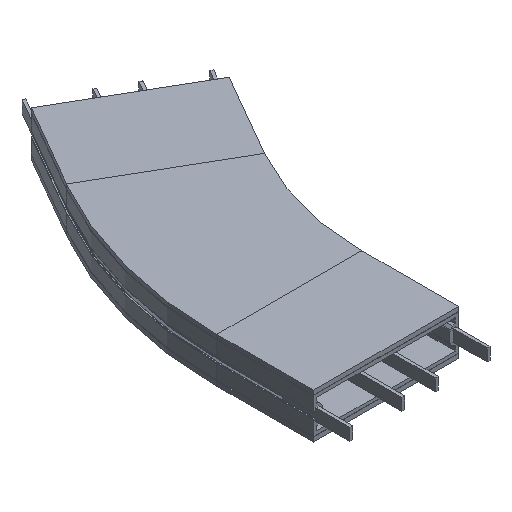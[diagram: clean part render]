
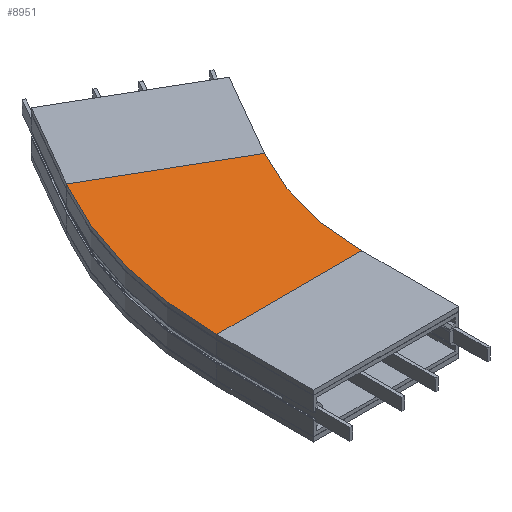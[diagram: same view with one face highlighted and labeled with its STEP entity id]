
A CAD part, isometric view. The second image highlights one B-rep face of the part: STEP entity #8951.
In plain terms, the highlighted planar face has unit normal (0, 0, 1).
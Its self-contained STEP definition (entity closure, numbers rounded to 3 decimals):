
#23 = LINE ( 'NONE', #8773, #5814 ) ;
#126 = CARTESIAN_POINT ( 'NONE',  ( -550., 0., 46.5 ) ) ;
#1359 = LINE ( 'NONE', #9263, #1431 ) ;
#1431 = VECTOR ( 'NONE', #2180, 1000. ) ;
#1510 = PLANE ( 'NONE',  #3839 ) ;
#1530 = CIRCLE ( 'NONE', #8471, 550. ) ;
#1598 = CIRCLE ( 'NONE', #9861, 850. ) ;
#1671 = DIRECTION ( 'NONE',  ( -0.866, 0.5, 0. ) ) ;
#1716 = DIRECTION ( 'NONE',  ( 0., 0., 1. ) ) ;
#1888 = DIRECTION ( 'NONE',  ( -0.866, 0.5, 0. ) ) ;
#1957 = VERTEX_POINT ( 'NONE', #4627 ) ;
#1984 = ORIENTED_EDGE ( 'NONE', *, *, #4043, .F. ) ;
#2180 = DIRECTION ( 'NONE',  ( -1., 0., 0. ) ) ;
#2436 = DIRECTION ( 'NONE',  ( 1., 0., 0. ) ) ;
#2492 = DIRECTION ( 'NONE',  ( 0., 0., 1. ) ) ;
#2640 = CARTESIAN_POINT ( 'NONE',  ( -736.122, 425., 46.5 ) ) ;
#2765 = VERTEX_POINT ( 'NONE', #2640 ) ;
#3180 = DIRECTION ( 'NONE',  ( -0.866, 0.5, 0. ) ) ;
#3267 = ORIENTED_EDGE ( 'NONE', *, *, #6031, .T. ) ;
#3772 = ORIENTED_EDGE ( 'NONE', *, *, #4900, .T. ) ;
#3839 = AXIS2_PLACEMENT_3D ( 'NONE', #7825, #1716, #2436 ) ;
#4043 = EDGE_CURVE ( 'NONE', #7325, #9848, #1359, .T. ) ;
#4627 = CARTESIAN_POINT ( 'NONE',  ( -476.314, 275., 46.5 ) ) ;
#4900 = EDGE_CURVE ( 'NONE', #2765, #9848, #1598, .T. ) ;
#5683 = EDGE_LOOP ( 'NONE', ( #1984, #7050, #3267, #3772 ) ) ;
#5814 = VECTOR ( 'NONE', #3180, 1000. ) ;
#6031 = EDGE_CURVE ( 'NONE', #1957, #2765, #23, .T. ) ;
#6089 = EDGE_CURVE ( 'NONE', #1957, #7325, #1530, .T. ) ;
#7050 = ORIENTED_EDGE ( 'NONE', *, *, #6089, .F. ) ;
#7161 = CARTESIAN_POINT ( 'NONE',  ( 0., 0., 46.5 ) ) ;
#7325 = VERTEX_POINT ( 'NONE', #126 ) ;
#7825 = CARTESIAN_POINT ( 'NONE',  ( -736.122, 425., 46.5 ) ) ;
#8236 = CARTESIAN_POINT ( 'NONE',  ( -850., 0., 46.5 ) ) ;
#8471 = AXIS2_PLACEMENT_3D ( 'NONE', #8827, #9647, #1888 ) ;
#8773 = CARTESIAN_POINT ( 'NONE',  ( -736.122, 425., 46.5 ) ) ;
#8803 = FACE_OUTER_BOUND ( 'NONE', #5683, .T. ) ;
#8827 = CARTESIAN_POINT ( 'NONE',  ( 0., 0., 46.5 ) ) ;
#8951 = ADVANCED_FACE ( 'NONE', ( #8803 ), #1510, .T. ) ;
#9263 = CARTESIAN_POINT ( 'NONE',  ( -850., 0., 46.5 ) ) ;
#9647 = DIRECTION ( 'NONE',  ( 0., 0., 1. ) ) ;
#9848 = VERTEX_POINT ( 'NONE', #8236 ) ;
#9861 = AXIS2_PLACEMENT_3D ( 'NONE', #7161, #2492, #1671 ) ;
